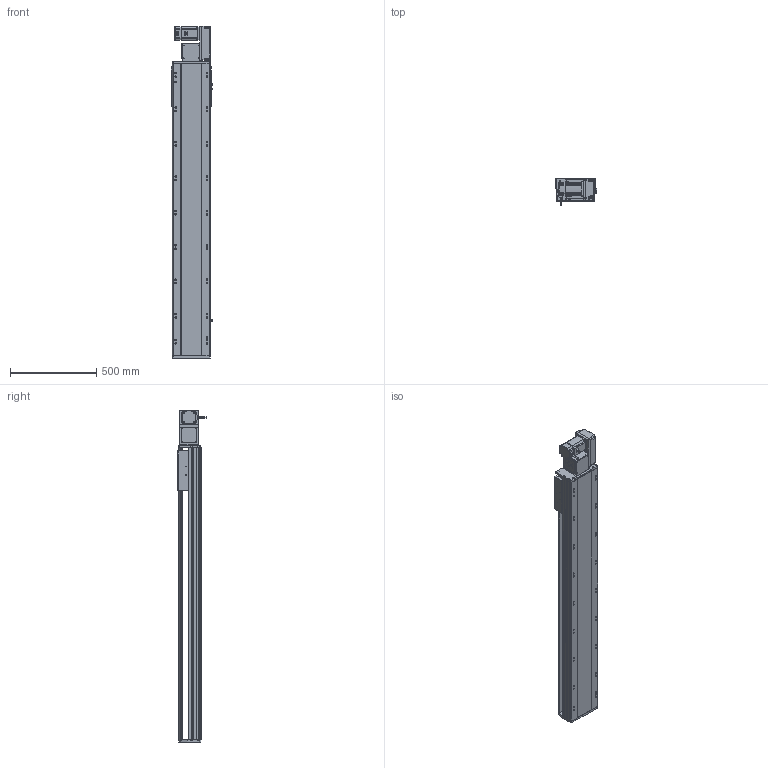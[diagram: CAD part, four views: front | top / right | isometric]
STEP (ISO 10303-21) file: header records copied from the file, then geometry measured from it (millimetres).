
FILE_DESCRIPTION (( 'STEP AP214' ), '1' );
FILE_NAME ('RTB22S-XX-1350-R-M75-C4.STEP', '2025-12-12T07:21:39', ( '' ), ( '' ), 'SwSTEP 2.0', 'SolidWorks 2018', '' );
FILE_SCHEMA (( 'AUTOMOTIVE_DESIGN' ));
Length unit declared in the file: millimetre
Products named in the file (14): 750W萇儂^RTB22S-XX-XX-R-M75-C4; RTB22S-GY-005P^RTB22S-R-々湍釱蚾饜_RTB22S-XX-XX-R-M75-C4; RTB22S-GY-017P^RTB22S-R-々湍釱蚾饜_RTB22S-XX-XX-R-M75-C4; RTB22S-GY-007奻裔^RTB22S-XX-XX-R-M75-C4; RTB22S-R-々湍釱蚾饜^RTB22S-XX-XX-R-M75-C4; RTB22S-GY-018P^RTB22S-R-々湍釱蚾饜_RTB22S-XX-XX-R-M75-C4; RTB22S-GY-014--々湍釱^RTB22S-R-々湍釱蚾饜_RTB22S-XX-XX-R-M75-C4; OMRON EE-SX672 传感器^RTB22S-XX-XX-R-M75-C4; RTB22S-L-004賑釱^RTB22S-XX-XX-R-M75-C4; RTH22-GY-013外置感应片^RTB22S-XX-XX-R-M75-C4; RTB22S-XX-1350-R-M75-C4; RTB22S-GY-008-M75--萇儂啣^RTB22S-R-々湍釱蚾饜_RTB22S-XX-XX-R-M75-C4; RTB22S-GY-001耜裔^RTB22S-XX-XX-R-M75-C4; RTB22S-L-011菁釱^RTB22S-XX-XX-R-M75-C4
Assembly tree (16 placements, depth 3):
  RTB22S-XX-1350-R-M75-C4
    RTB22S-L-011菁釱^RTB22S-XX-XX-R-M75-C4
    RTB22S-GY-001耜裔^RTB22S-XX-XX-R-M75-C4
    750W萇儂^RTB22S-XX-XX-R-M75-C4
    RTB22S-GY-007奻裔^RTB22S-XX-XX-R-M75-C4
    RTB22S-L-004賑釱^RTB22S-XX-XX-R-M75-C4
    RTH22-GY-013外置感应片^RTB22S-XX-XX-R-M75-C4
    OMRON EE-SX672 传感器^RTB22S-XX-XX-R-M75-C4  x3
    RTB22S-R-々湍釱蚾饜^RTB22S-XX-XX-R-M75-C4
      RTB22S-GY-014--々湍釱^RTB22S-R-々湍釱蚾饜_RTB22S-XX-XX-R-M75-C4
      RTB22S-GY-017P^RTB22S-R-々湍釱蚾饜_RTB22S-XX-XX-R-M75-C4  x2
      RTB22S-GY-005P^RTB22S-R-々湍釱蚾饜_RTB22S-XX-XX-R-M75-C4
      RTB22S-GY-008-M75--萇儂啣^RTB22S-R-々湍釱蚾饜_RTB22S-XX-XX-R-M75-C4
      RTB22S-GY-018P^RTB22S-R-々湍釱蚾饜_RTB22S-XX-XX-R-M75-C4
Bounding box: 238.5 x 162.7 x 1929 mm (x, y, z)
Volume: 25367960.1 mm3; surface area: 2623676 mm2
Topology: 15 solids, 15 shells, 2001 faces, 5436 edges, 3482 vertices
Faces by surface type: plane 917, cylinder 634, bspline 296, cone 142, sphere 8, torus 4
Entity records: 53426 total; most frequent: CARTESIAN_POINT 15320, ORIENTED_EDGE 7652, DIRECTION 7380, EDGE_CURVE 3826, AXIS2_PLACEMENT_3D 2610, VERTEX_POINT 2486, VECTOR 2160, LINE 2160
